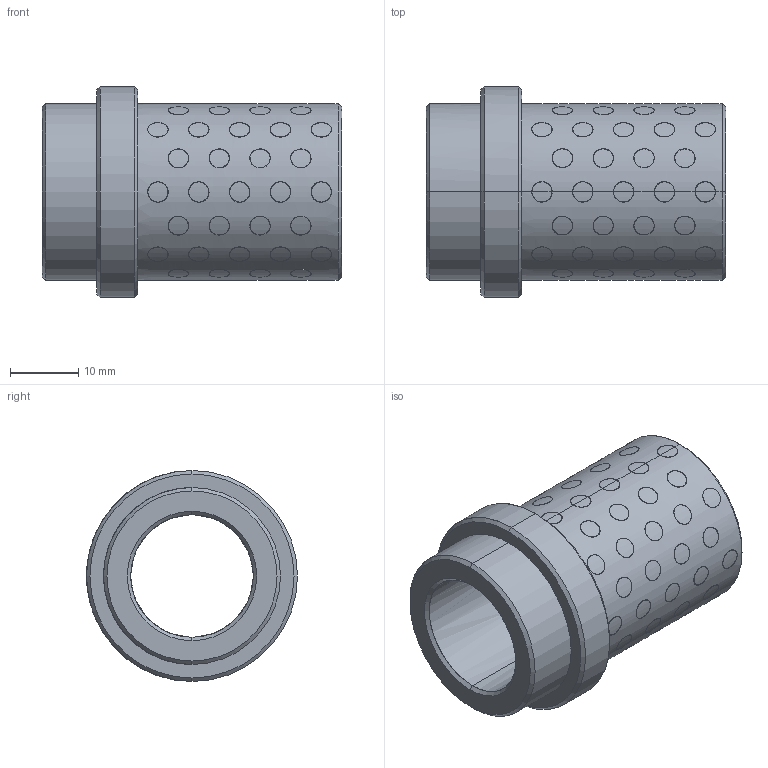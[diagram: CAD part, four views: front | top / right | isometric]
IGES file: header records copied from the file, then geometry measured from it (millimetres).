
Start section: START RECORD GO HERE.
Global section: file name: G31218036.igs; native system: DASSAULT SYSTEMES CATIA V5 R20 - www.3ds.com; preprocessor: CATIA Version 5 Release 20 ; author: r.borello; organization: CFTORINO; date: 20190624.121750; units: millimetre
Bounding box: 44 x 31 x 31 mm (x, y, z)
Surface area: 12413.5 mm2 (no closed solid volume)
Topology: 0 solids, 0 shells, 476 faces, 2064 edges, 2064 vertices
Faces by surface type: revolution 472, plane 4
